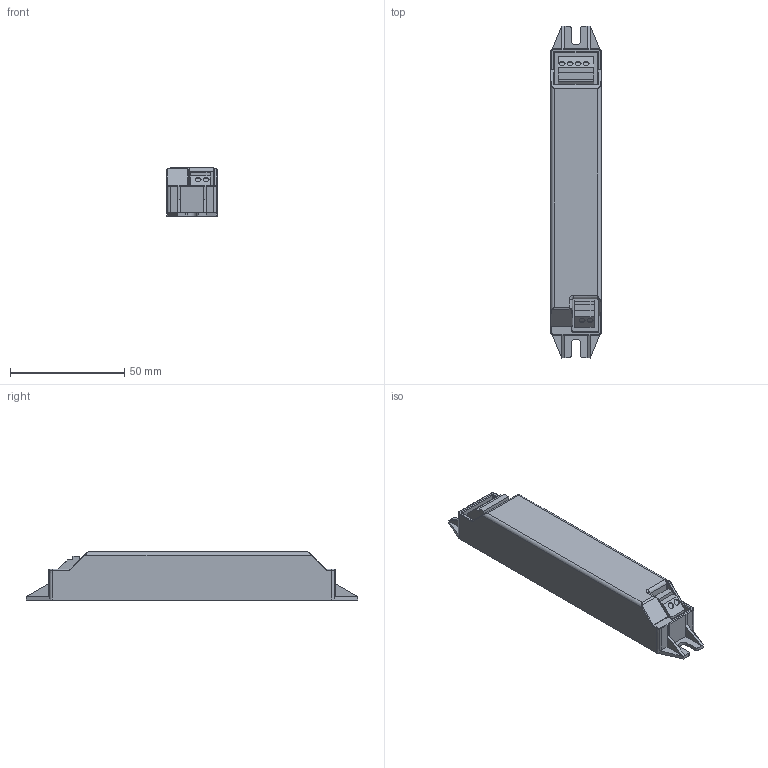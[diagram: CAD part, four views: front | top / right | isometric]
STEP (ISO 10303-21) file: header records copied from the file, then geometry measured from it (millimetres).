
FILE_DESCRIPTION((''),'2;1');
FILE_NAME('15007851Z','2013-06-24T',('juergen.hrach'),(''),'PRO/ENGINEER BY PARAMETRIC TECHNOLOGY CORPORATION, 2012420','PRO/ENGINEER BY PARAMETRIC TECHNOLOGY CORPORATION, 2012420','');
FILE_SCHEMA(('AUTOMOTIVE_DESIGN { 1 2 10303 214 0 1 1 1 }'));
Length unit declared in the file: millimetre
Products named in the file (1): 15007851Z
Bounding box: 22.2 x 145 x 21 mm (x, y, z)
Volume: 53942 mm3; surface area: 14022.4 mm2
Topology: 1 solids, 1 shells, 203 faces, 506 edges, 313 vertices
Faces by surface type: plane 91, cylinder 68, torus 18, bspline 17, extrusion 8, sphere 1
Entity records: 8597 total; most frequent: CARTESIAN_POINT 2269, ORIENTED_EDGE 1012, DIRECTION 912, PRESENTATION_STYLE_ASSIGNMENT 507, STYLED_ITEM 507, CURVE_STYLE 506, EDGE_CURVE 506, VERTEX_POINT 313
